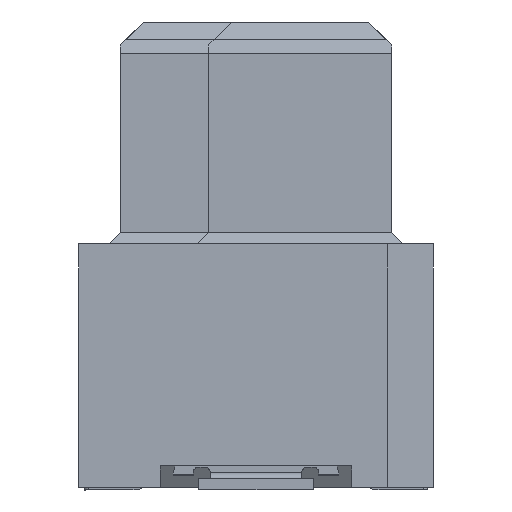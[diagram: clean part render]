
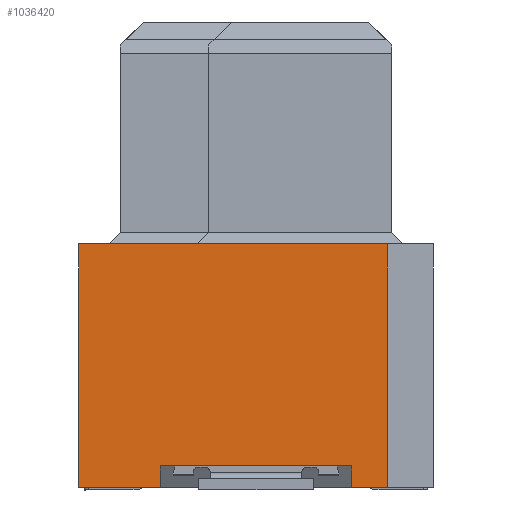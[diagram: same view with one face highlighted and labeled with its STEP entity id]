
A CAD part, left-side view. The second image highlights one B-rep face of the part: STEP entity #1036420.
In plain terms, the highlighted planar face has unit normal (-1, 0, 0) as drawn and (0, 0, 1) by its records, which use the part's own axes.
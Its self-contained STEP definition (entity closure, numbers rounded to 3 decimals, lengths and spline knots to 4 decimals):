
#1021410=CARTESIAN_POINT('',(0.,4.25,37.31));
#1021420=VERTEX_POINT('',#1021410);
#1021450=CARTESIAN_POINT('',(0.,0.,37.31));
#1021460=DIRECTION('',(0.,-1.,0.));
#1021470=VECTOR('',#1021460,1.);
#1021480=LINE('',#1021450,#1021470);
#1021490=CARTESIAN_POINT('',(0.,0.,37.31));
#1021500=VERTEX_POINT('',#1021490);
#1021510=EDGE_CURVE('',#1021420,#1021500,#1021480,.T.);
#1022120=CARTESIAN_POINT('',(5.4,4.25,37.31));
#1022130=VERTEX_POINT('',#1022120);
#1022160=CARTESIAN_POINT('',(5.47,4.25,37.31));
#1022170=DIRECTION('',(-1.,0.,0.));
#1022180=VECTOR('',#1022170,1.);
#1022190=LINE('',#1022160,#1022180);
#1022200=EDGE_CURVE('',#1022130,#1021420,#1022190,.T.);
#1022460=CARTESIAN_POINT('',(5.47,0.,37.31));
#1022470=DIRECTION('',(-1.,0.,0.));
#1022480=VECTOR('',#1022470,1.);
#1022490=LINE('',#1022460,#1022480);
#1022500=CARTESIAN_POINT('',(1.425,0.,37.31));
#1022510=VERTEX_POINT('',#1022500);
#1022520=EDGE_CURVE('',#1022510,#1021500,#1022490,.T.);
#1022740=CARTESIAN_POINT('',(4.775,0.,37.31));
#1022750=VERTEX_POINT('',#1022740);
#1022780=CARTESIAN_POINT('',(5.4,0.,37.31
));
#1022790=VERTEX_POINT('',#1022780);
#1022800=EDGE_CURVE('',#1022790,#1022750,#1022490,.T.);
#1024260=CARTESIAN_POINT('',(5.4,2.125,37.31));
#1024270=DIRECTION('',(0.,1.,0.));
#1024280=VECTOR('',#1024270,1.);
#1024290=LINE('',#1024260,#1024280);
#1024300=EDGE_CURVE('',#1022790,#1022130,#1024290,.T.);
#1025650=CARTESIAN_POINT('',(4.775,0.,37.31));
#1025660=DIRECTION('',(0.,-1.,0.));
#1025670=VECTOR('',#1025660,1.);
#1025680=LINE('',#1025650,#1025670);
#1025690=CARTESIAN_POINT('',(4.775,0.37,37.31));
#1025700=VERTEX_POINT('',#1025690);
#1025710=EDGE_CURVE('',#1025700,#1022750,#1025680,.T.);
#1025960=CARTESIAN_POINT('',(0.,0.37,37.31));
#1025970=DIRECTION('',(1.,0.,0.));
#1025980=VECTOR('',#1025970,1.);
#1025990=LINE('',#1025960,#1025980);
#1026000=CARTESIAN_POINT('',(1.425,0.37,37.31));
#1026010=VERTEX_POINT('',#1026000);
#1026020=EDGE_CURVE('',#1026010,#1025700,#1025990,.T.);
#1026610=CARTESIAN_POINT('',(1.425,0.,37.31));
#1026620=DIRECTION('',(0.,1.,0.));
#1026630=VECTOR('',#1026620,1.);
#1026640=LINE('',#1026610,#1026630);
#1026650=EDGE_CURVE('',#1022510,#1026010,#1026640,.T.);
#1036270=CARTESIAN_POINT('',(5.47,4.25,37.31));
#1036280=DIRECTION('',(0.,-0.,1.));
#1036290=DIRECTION('',(0.,1.,0.));
#1036300=AXIS2_PLACEMENT_3D('',#1036270,#1036280,#1036290);
#1036310=PLANE('',#1036300);
#1036320=ORIENTED_EDGE('',*,*,#1021510,.T.);
#1036330=ORIENTED_EDGE('',*,*,#1022200,.T.);
#1036340=ORIENTED_EDGE('',*,*,#1024300,.T.);
#1036350=ORIENTED_EDGE('',*,*,#1022800,.F.);
#1036360=ORIENTED_EDGE('',*,*,#1025710,.T.);
#1036370=ORIENTED_EDGE('',*,*,#1026020,.T.);
#1036380=ORIENTED_EDGE('',*,*,#1026650,.T.);
#1036390=ORIENTED_EDGE('',*,*,#1022520,.F.);
#1036400=EDGE_LOOP('',(#1036390,#1036380,#1036370,#1036360,#1036350,
#1036340,#1036330,#1036320));
#1036410=FACE_OUTER_BOUND('',#1036400,.T.);
#1036420=ADVANCED_FACE('',(#1036410),#1036310,.T.);
